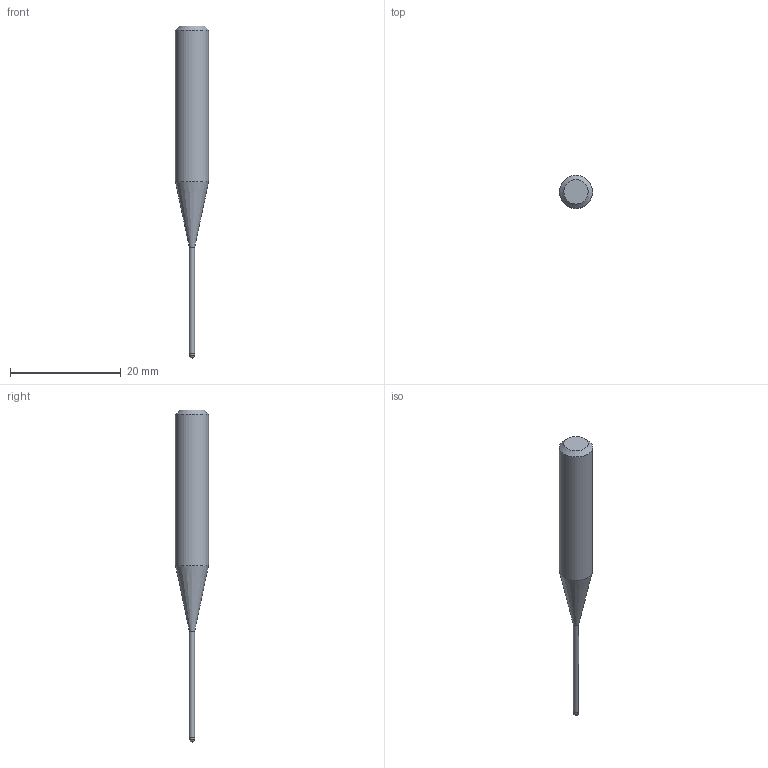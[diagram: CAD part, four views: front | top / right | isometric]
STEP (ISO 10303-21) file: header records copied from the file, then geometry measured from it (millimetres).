
FILE_DESCRIPTION((''),'2;1');
FILE_NAME('C:\Users\nsx150\AppData\Local\Temp\Mastercam 2021\3SYKECWX22\TEMP.step','2021-04-22T10:02:37',(''),(''),'STEP Write','Mastercam 2021 ... CNC Software, Inc.','');
FILE_SCHEMA(('AUTOMOTIVE_DESIGN'));
Length unit declared in the file: millimetre
Products named in the file (1): None
Bounding box: 6 x 6 x 60 mm (x, y, z)
Volume: 936.2 mm3; surface area: 742.6 mm2
Topology: 2 solids, 2 shells, 9 faces, 14 edges, 8 vertices
Faces by surface type: plane 3, cylinder 3, cone 2, sphere 1
Full cylindrical faces by diameter (mm): 0.95 x1, 1 x1, 6 x1
Entity records: 211 total; most frequent: DIRECTION 36, CARTESIAN_POINT 25, AXIS2_PLACEMENT_3D 18, ORIENTED_EDGE 14, EDGE_LOOP 14, STYLED_ITEM 12, ADVANCED_FACE 9, FACE_BOUND 8
